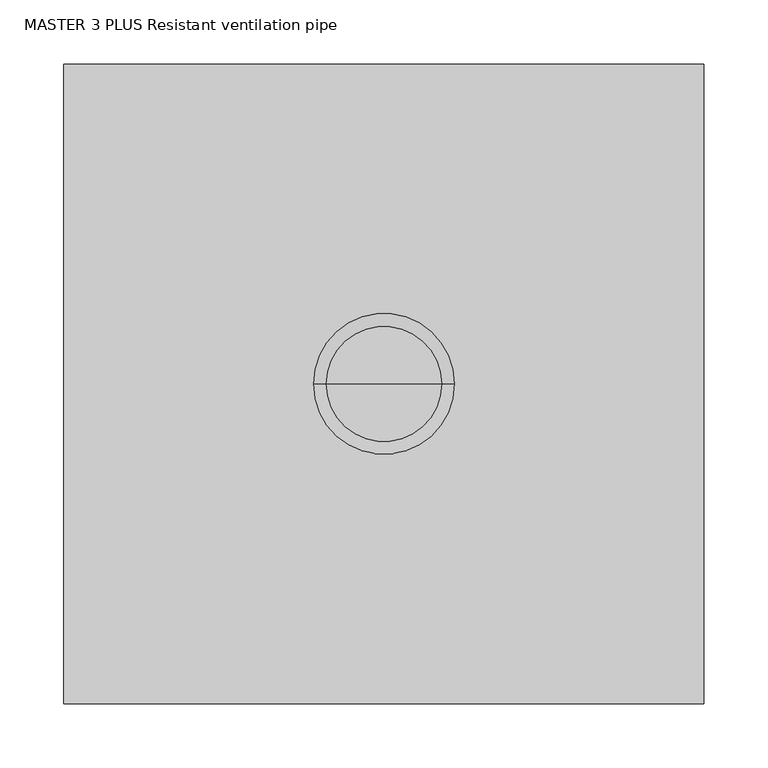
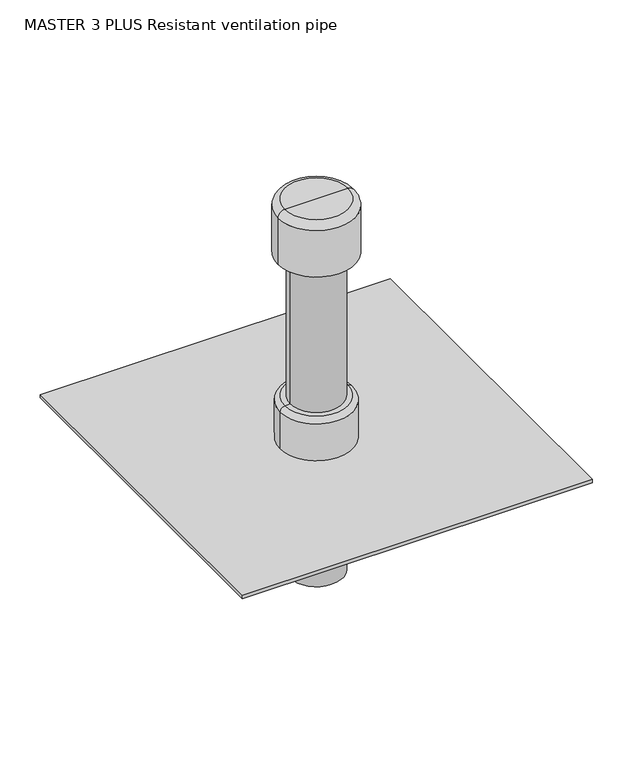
"""IFC4 building model written with IfcOpenShell, lengths in millimetres: valve geometry, MASTER 3 PLUS Resistant ventilation pipe : DN75, Lesp = 200, L3 = 360 mm."""

from ifc_helpers import new_model, si_unit, point, frame, origin, origin_with_axes, origin_2d, place, context, project, spatial, polyline, circle_curve, ellipse_curve, trimmed, segment, composite_curve, outline, extrude, source, transform, mapped, element, save
from ifc_brep_helpers import plane_surface, cylinder_surface, revolved_surface, advanced_brep


def master_3_plus_resistant_ventilation_pipe_5066f505(model_context):
    return source(origin(), model_context, "Body", "SolidModel", [
        advanced_brep(
        [(45.0, 0.0, 560.0), (-45.0, 0.0, 560.0), (0.0, 0.0, 560.0), (55.0, 0.0, 480.0), (-55.0, 0.0, 480.0), (-55.0, 0.0, 550.0), (55.0, 0.0, 550.0), (0.0, 0.0, 480.0)],
        [
            (0, 1, circle_curve(frame((0.0, 0.0, 560.0), z_axis=(0.0, 0.0, 1.0), x_axis=(-1.0, 0.0, 0.0)), 45.0)),
            (1, 2),
            (2, 0),
            (1, 0, circle_curve(frame((0.0, 0.0, 560.0), z_axis=(0.0, 0.0, 1.0), x_axis=(-1.0, 0.0, 0.0)), 45.0)),
            (3, 4, circle_curve(frame((0.0, 0.0, 480.0), z_axis=(0.0, 0.0, 1.0), x_axis=(-1.0, 0.0, 0.0)), 55.0)),
            (4, 5),
            (5, 6, circle_curve(frame((0.0, 0.0, 550.0), z_axis=(0.0, 0.0, -1.0), x_axis=(-1.0, 0.0, 0.0)), 55.0)),
            (6, 3),
            (4, 3, circle_curve(frame((0.0, 0.0, 480.0), z_axis=(0.0, 0.0, 1.0), x_axis=(-1.0, 0.0, 0.0)), 55.0)),
            (6, 5, circle_curve(frame((0.0, 0.0, 550.0), z_axis=(0.0, 0.0, -1.0), x_axis=(-1.0, 0.0, 0.0)), 55.0)),
            (7, 4),
            (3, 7),
            (5, 1, circle_curve(frame((-45.0, 0.0, 550.0), z_axis=(0.0, 1.0, 0.0), x_axis=(1.0, 0.0, 0.0)), 10.0)),
            (0, 6, circle_curve(frame((45.0, 0.0, 550.0), z_axis=(0.0, 1.0, 0.0), x_axis=(-1.0, 0.0, 0.0)), 10.0)),
        ],
        [
            plane_surface(frame((0.0, 0.0, 560.0), z_axis=(0.0, 0.0, 1.0), x_axis=(-1.0, 0.0, 0.0))),
            cylinder_surface(frame((0.0, 0.0, 560.0), z_axis=(0.0, 0.0, -1.0), x_axis=(-1.0, 0.0, 0.0)), 55.0),
            plane_surface(frame((0.0, 0.0, 480.0), z_axis=(0.0, 0.0, -1.0), x_axis=(-1.0, 0.0, 0.0))),
            revolved_surface(trimmed(ellipse_curve(frame((-45.0, 0.0, 550.0), z_axis=(0.0, -1.0, 0.0), x_axis=(1.0, 0.0, 0.0)), 10.0, 10.0), [point((-45.0, 0.0, 560.0))], [point((-55.0, 0.0, 550.0))], True, "CARTESIAN"), (0.0, 0.0, 560.0), (0.0, 0.0, -1.0)),
        ],
        [
            (0, [[1, 2, 3]]),
            (0, [[4, -3, -2]]),
            (1, [[5, 6, 7, 8]]),
            (1, [[9, -8, 10, -6]]),
            (2, [[11, -5, 12]]),
            (2, [[-12, -9, -11]]),
            (3, [[-7, 13, -1, 14]]),
            (3, [[-10, -14, -4, -13]]),
        ],
    ),
        extrude(outline(polyline([(250.0, 250.0), (250.0, -250.0), (-250.0, -250.0), (-250.0, 250.0), (250.0, 250.0)]), holes=[composite_curve([segment(trimmed(circle_curve(origin_2d(), 37.5), [point((-37.5, 0.0))], [point((37.5, 0.0))], True, "CARTESIAN"), True, "CONTINUOUS"), segment(trimmed(circle_curve(origin_2d(), 37.5), [point((37.5, 0.0))], [point((-37.5, 0.0))], True, "CARTESIAN"), True, "CONTINUOUS")], self_intersect=False)]), frame((0.0, 0.0, 194.9838403), z_axis=(0.0, 0.0, 1.0), x_axis=(1.0, 0.0, 0.0)), (0.0, 0.0, 1.0), 5.0161597),
        advanced_brep(
        [(52.0, 0.0, 200.0), (-52.0, 0.0, 200.0), (-52.0, 0.0, 255.75), (52.0, 0.0, 255.75), (37.5, 0.0, 200.0), (-37.5, 0.0, 200.0), (37.5, 0.0, 263.0), (-37.5, 0.0, 263.0), (44.75, 0.0, 263.0), (-44.75, 0.0, 263.0)],
        [
            (0, 1, circle_curve(frame((0.0, 0.0, 200.0), z_axis=(0.0, 0.0, 1.0), x_axis=(-1.0, 0.0, 0.0)), 52.0)),
            (1, 2),
            (2, 3, circle_curve(frame((0.0, 0.0, 255.75), z_axis=(0.0, 0.0, -1.0), x_axis=(-1.0, 0.0, 0.0)), 52.0)),
            (3, 0),
            (1, 0, circle_curve(frame((0.0, 0.0, 200.0), z_axis=(0.0, 0.0, 1.0), x_axis=(-1.0, 0.0, 0.0)), 52.0)),
            (3, 2, circle_curve(frame((0.0, 0.0, 255.75), z_axis=(0.0, 0.0, -1.0), x_axis=(-1.0, 0.0, 0.0)), 52.0)),
            (4, 5, circle_curve(frame((0.0, 0.0, 200.0), z_axis=(0.0, 0.0, 1.0), x_axis=(-1.0, 0.0, 0.0)), 37.5)),
            (5, 1),
            (0, 4),
            (5, 4, circle_curve(frame((0.0, 0.0, 200.0), z_axis=(0.0, 0.0, 1.0), x_axis=(-1.0, 0.0, 0.0)), 37.5)),
            (6, 7, circle_curve(frame((0.0, 0.0, 263.0), z_axis=(0.0, 0.0, 1.0), x_axis=(-1.0, 0.0, 0.0)), 37.5)),
            (7, 5),
            (4, 6),
            (7, 6, circle_curve(frame((0.0, 0.0, 263.0), z_axis=(0.0, 0.0, 1.0), x_axis=(-1.0, 0.0, 0.0)), 37.5)),
            (8, 9, circle_curve(frame((0.0, 0.0, 263.0), z_axis=(0.0, 0.0, 1.0), x_axis=(-1.0, 0.0, 0.0)), 44.75)),
            (9, 7),
            (6, 8),
            (9, 8, circle_curve(frame((0.0, 0.0, 263.0), z_axis=(0.0, 0.0, 1.0), x_axis=(-1.0, 0.0, 0.0)), 44.75)),
            (2, 9, circle_curve(frame((-44.75, 0.0, 255.75), z_axis=(0.0, 1.0, 0.0), x_axis=(1.0, 0.0, 0.0)), 7.25)),
            (8, 3, circle_curve(frame((44.75, 0.0, 255.75), z_axis=(0.0, 1.0, 0.0), x_axis=(-1.0, 0.0, 0.0)), 7.25)),
        ],
        [
            cylinder_surface(frame((0.0, 0.0, 263.0), z_axis=(0.0, 0.0, -1.0), x_axis=(-1.0, 0.0, 0.0)), 52.0),
            plane_surface(frame((0.0, 0.0, 200.0), z_axis=(0.0, 0.0, -1.0), x_axis=(-1.0, 0.0, 0.0))),
            revolved_surface(polyline([(-37.5, 0.0, 200.0), (-37.5, 0.0, 263.0)]), (0.0, 0.0, 263.0), (0.0, 0.0, -1.0)),
            plane_surface(frame((0.0, 0.0, 263.0), z_axis=(0.0, 0.0, 1.0), x_axis=(-1.0, 0.0, 0.0))),
            revolved_surface(trimmed(ellipse_curve(frame((-44.75, 0.0, 255.75), z_axis=(0.0, -1.0, 0.0), x_axis=(1.0, 0.0, 0.0)), 7.25, 7.25), [point((-44.75, 0.0, 263.0))], [point((-52.0, 0.0, 255.75))], True, "CARTESIAN"), (0.0, 0.0, 263.0), (0.0, 0.0, -1.0)),
        ],
        [
            (0, [[1, 2, 3, 4]]),
            (0, [[5, -4, 6, -2]]),
            (1, [[7, 8, -1, 9]]),
            (1, [[10, -9, -5, -8]]),
            (2, [[11, 12, -7, 13]]),
            (2, [[14, -13, -10, -12]]),
            (3, [[15, 16, -11, 17]]),
            (3, [[18, -17, -14, -16]]),
            (4, [[-3, 19, -15, 20]]),
            (4, [[-6, -20, -18, -19]]),
        ],
    ),
        extrude(outline(composite_curve([segment(trimmed(circle_curve(origin_2d(), 37.5), [point((37.5, 0.0))], [point((-37.5, 0.0))], False, "CARTESIAN"), True, "CONTINUOUS"), segment(trimmed(circle_curve(origin_2d(), 37.5), [point((-37.5, 0.0))], [point((37.5, 0.0))], False, "CARTESIAN"), True, "CONTINUOUS")], self_intersect=False)), frame((0.0, 0.0, 200.0), z_axis=(0.0, 0.0, 1.0), x_axis=(1.0, 0.0, 0.0)), (0.0, 0.0, 1.0), 332.0),
        extrude(outline(composite_curve([segment(trimmed(circle_curve(origin_2d(), 37.5), [point((-37.5, 0.0))], [point((37.5, 0.0))], False, "CARTESIAN"), True, "CONTINUOUS"), segment(trimmed(circle_curve(origin_2d(), 37.5), [point((37.5, 0.0))], [point((-37.5, 0.0))], False, "CARTESIAN"), True, "CONTINUOUS")], self_intersect=False)), origin_with_axes(), (0.0, 0.0, 1.0), 194.9838403),
    ])


if __name__ == "__main__":
    model = new_model("IFC4")
    model_context = context("Model", 3, world=origin())
    ifc_project = project(units=[si_unit("LENGTHUNIT", "METRE", prefix="MILLI")], contexts=[model_context])
    site = spatial("IfcSite", under=ifc_project)
    building = spatial("IfcBuilding", under=site)
    placement = place(None, origin())
    master_3_plus_resistant_ventilation_pipe_shape = master_3_plus_resistant_ventilation_pipe_5066f505(model_context)
    element("IfcValve", 1, ObjectType="MASTER 3 PLUS Resistant ventilation pipe : DN75, Lesp = 200, L3 = 360 mm", at=placement, inside=building, context=model_context, shape_type="MappedRepresentation", body=[
        mapped(master_3_plus_resistant_ventilation_pipe_shape, transform((0.0, 0.0, 0.0), x_axis=(1.0, 0.0, 0.0), y_axis=(0.0, 1.0, 0.0), z_axis=(0.0, 0.0, 1.0))),
    ])
    save(model, "model.ifc")
